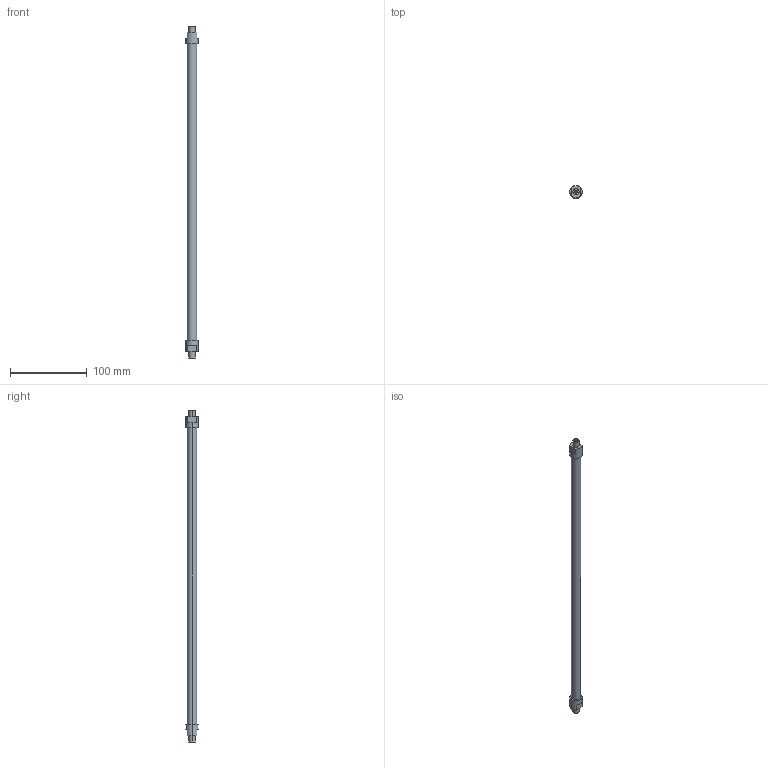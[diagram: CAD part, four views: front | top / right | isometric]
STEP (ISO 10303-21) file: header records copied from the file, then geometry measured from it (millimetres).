
FILE_DESCRIPTION(('STEP AP214'),'1');
FILE_NAME('ETT-R025G425.stp','2015-02-03T08:47:29',(' '),(' '),'Spatial InterOp 3D',' ',' ');
FILE_SCHEMA(('automotive_design'));
Length unit declared in the file: metre
Products named in the file (2): 1; 2
Bounding box: 16 x 16 x 432 mm (x, y, z)
Volume: 49817 mm3; surface area: 17392.4 mm2
Topology: 1 solids, 4 shells, 33 faces, 78 edges, 56 vertices
Faces by surface type: plane 17, cylinder 16
Entity records: 1292 total; most frequent: DIRECTION 192, CARTESIAN_POINT 169, ORIENTED_EDGE 144, AXIS2_PLACEMENT_3D 79, EDGE_CURVE 78, VERTEX_POINT 56, CIRCLE 44, EDGE_LOOP 40
